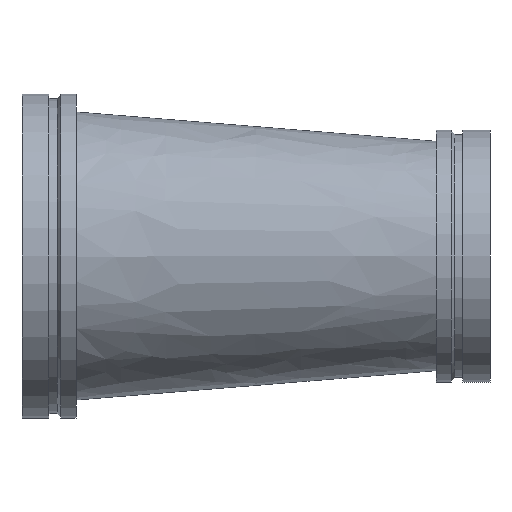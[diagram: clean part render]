
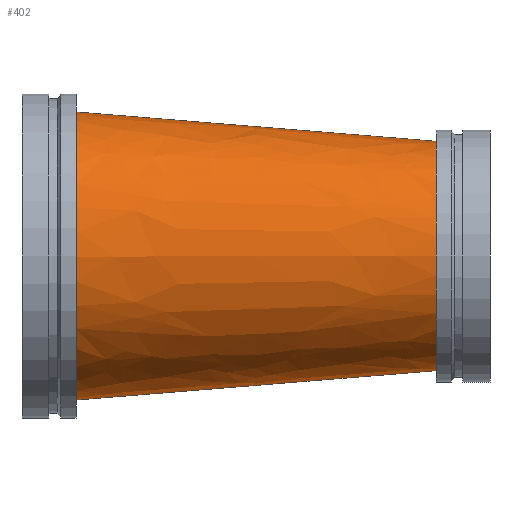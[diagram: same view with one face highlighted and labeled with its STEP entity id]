
A CAD part, front view. The second image highlights one B-rep face of the part: STEP entity #402.
In plain terms, the highlighted free-form (B-spline) face has degree [1, 2] with [2, 9] control points.
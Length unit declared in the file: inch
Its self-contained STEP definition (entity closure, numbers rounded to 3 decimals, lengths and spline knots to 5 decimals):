
#46=B_SPLINE_CURVE_WITH_KNOTS('',1,(#777,#778),.UNSPECIFIED.,.F.,.F.,(2,
2),(-2.51682,-0.00053),.UNSPECIFIED.);
#48=(
BOUNDED_SURFACE()
B_SPLINE_SURFACE(1,2,((#759,#760,#761,#762,#763,#764,#765,#766,#767),(#768,
#769,#770,#771,#772,#773,#774,#775,#776)),.UNSPECIFIED.,.F.,.T.,.F.)
B_SPLINE_SURFACE_WITH_KNOTS((2,2),(3,2,2,2,3),(-0.08072,2.58072),
(-3.14159,-1.5708,0.,1.5708,3.14159),
 .UNSPECIFIED.)
GEOMETRIC_REPRESENTATION_ITEM()
RATIONAL_B_SPLINE_SURFACE(((1.,0.707,1.,0.707,1.,
0.707,1.,0.707,1.),(1.,0.707,1.,0.707,
1.,0.707,1.,0.707,1.)))
REPRESENTATION_ITEM('')
SURFACE()
);
#98=FACE_OUTER_BOUND('',#120,.T.);
#120=EDGE_LOOP('',(#333,#334,#335,#336,#337,#338));
#129=CIRCLE('',#430,6.375);
#130=CIRCLE('',#431,6.375);
#153=CIRCLE('',#465,8.);
#154=CIRCLE('',#466,8.);
#169=VERTEX_POINT('',#652);
#170=VERTEX_POINT('',#653);
#193=VERTEX_POINT('',#719);
#194=VERTEX_POINT('',#720);
#209=EDGE_CURVE('',#169,#170,#129,.T.);
#210=EDGE_CURVE('',#170,#169,#130,.T.);
#241=EDGE_CURVE('',#193,#194,#153,.T.);
#242=EDGE_CURVE('',#194,#193,#154,.T.);
#252=EDGE_CURVE('',#170,#194,#46,.T.);
#333=ORIENTED_EDGE('',*,*,#209,.T.);
#334=ORIENTED_EDGE('',*,*,#252,.T.);
#335=ORIENTED_EDGE('',*,*,#242,.T.);
#336=ORIENTED_EDGE('',*,*,#241,.T.);
#337=ORIENTED_EDGE('',*,*,#252,.F.);
#338=ORIENTED_EDGE('',*,*,#210,.T.);
#402=ADVANCED_FACE('',(#98),#48,.F.);
#430=AXIS2_PLACEMENT_3D('',#654,#504,#505);
#431=AXIS2_PLACEMENT_3D('',#655,#506,#507);
#465=AXIS2_PLACEMENT_3D('',#721,#582,#583);
#466=AXIS2_PLACEMENT_3D('',#722,#584,#585);
#504=DIRECTION('center_axis',(-1.,0.,0.));
#505=DIRECTION('ref_axis',(0.,-1.,0.));
#506=DIRECTION('center_axis',(-1.,0.,0.));
#507=DIRECTION('ref_axis',(0.,-1.,0.));
#582=DIRECTION('center_axis',(1.,0.,0.));
#583=DIRECTION('ref_axis',(0.,1.,0.));
#584=DIRECTION('center_axis',(1.,0.,0.));
#585=DIRECTION('ref_axis',(0.,1.,0.));
#652=CARTESIAN_POINT('',(23.,-8.,0.));
#653=CARTESIAN_POINT('',(23.,-1.66654,6.37486));
#654=CARTESIAN_POINT('Origin',(23.,-1.625,0.));
#655=CARTESIAN_POINT('Origin',(23.,-1.625,0.));
#719=CARTESIAN_POINT('',(3.,8.,0.));
#720=CARTESIAN_POINT('',(3.,-0.05213,7.99983));
#721=CARTESIAN_POINT('Origin',(3.,0.,0.));
#722=CARTESIAN_POINT('Origin',(3.,0.,0.));
#759=CARTESIAN_POINT('Ctrl Pts',(2.35424,0.,
8.0523));
#760=CARTESIAN_POINT('Ctrl Pts',(1.70847,-8.,8.0523));
#761=CARTESIAN_POINT('Ctrl Pts',(1.70847,-8.,0.));
#762=CARTESIAN_POINT('Ctrl Pts',(1.70847,-8.,-8.0523));
#763=CARTESIAN_POINT('Ctrl Pts',(2.35424,0.,
-8.0523));
#764=CARTESIAN_POINT('Ctrl Pts',(3.,8.,-8.0523));
#765=CARTESIAN_POINT('Ctrl Pts',(3.,8.,0.));
#766=CARTESIAN_POINT('Ctrl Pts',(3.,8.,8.0523));
#767=CARTESIAN_POINT('Ctrl Pts',(2.35424,0.,
8.0523));
#768=CARTESIAN_POINT('Ctrl Pts',(23.50793,-1.70754,6.3336));
#769=CARTESIAN_POINT('Ctrl Pts',(23.,-8.,6.3336));
#770=CARTESIAN_POINT('Ctrl Pts',(23.,-8.,0.));
#771=CARTESIAN_POINT('Ctrl Pts',(23.,-8.,-6.3336));
#772=CARTESIAN_POINT('Ctrl Pts',(23.50793,-1.70754,-6.3336));
#773=CARTESIAN_POINT('Ctrl Pts',(24.01586,4.58492,-6.3336));
#774=CARTESIAN_POINT('Ctrl Pts',(24.01586,4.58492,0.));
#775=CARTESIAN_POINT('Ctrl Pts',(24.01586,4.58492,6.3336));
#776=CARTESIAN_POINT('Ctrl Pts',(23.50793,-1.70754,6.3336));
#777=CARTESIAN_POINT('Ctrl Pts',(23.,-1.66654,6.37486));
#778=CARTESIAN_POINT('Ctrl Pts',(3.,-0.05213,7.99983));
